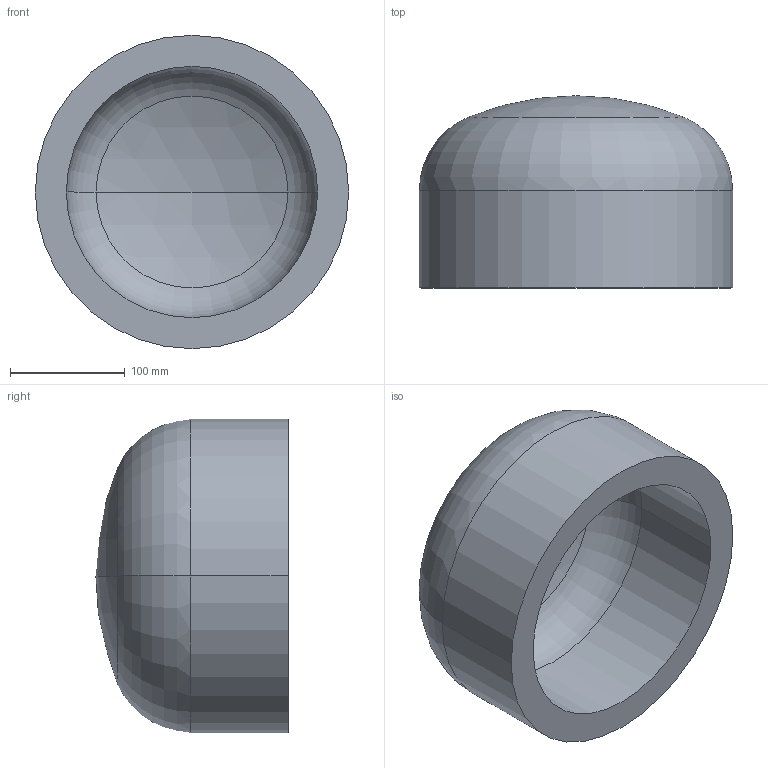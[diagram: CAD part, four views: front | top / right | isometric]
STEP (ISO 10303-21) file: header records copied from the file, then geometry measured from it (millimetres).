
FILE_DESCRIPTION (( 'STEP AP203' ), '1' );
FILE_NAME ('DIN 28013 Korbbogenform_-_Boden DIN 28013 - 273 x 85 - I - s=27.step', '2016-07-01T07:43:44', ( '' ), ( '' ), 'SwSTEP 2.0', 'SolidWorks 2013', '' );
FILE_SCHEMA (( 'CONFIG_CONTROL_DESIGN' ));
Length unit declared in the file: millimetre
Products named in the file (1): DIN 28013 Korbbogenform_-_Boden DIN 28013 - 273 x 85 - I - s=27
Bounding box: 273 x 167.46 x 273 mm (x, y, z)
Volume: 3709924 mm3; surface area: 297202.4 mm2
Topology: 1 solids, 1 shells, 13 faces, 24 edges, 14 vertices
Faces by surface type: torus 4, cylinder 4, sphere 4, plane 1
Entity records: 407 total; most frequent: DIRECTION 72, CARTESIAN_POINT 52, ORIENTED_EDGE 48, AXIS2_PLACEMENT_3D 34, EDGE_CURVE 24, CIRCLE 20, VERTEX_POINT 14, EDGE_LOOP 14
